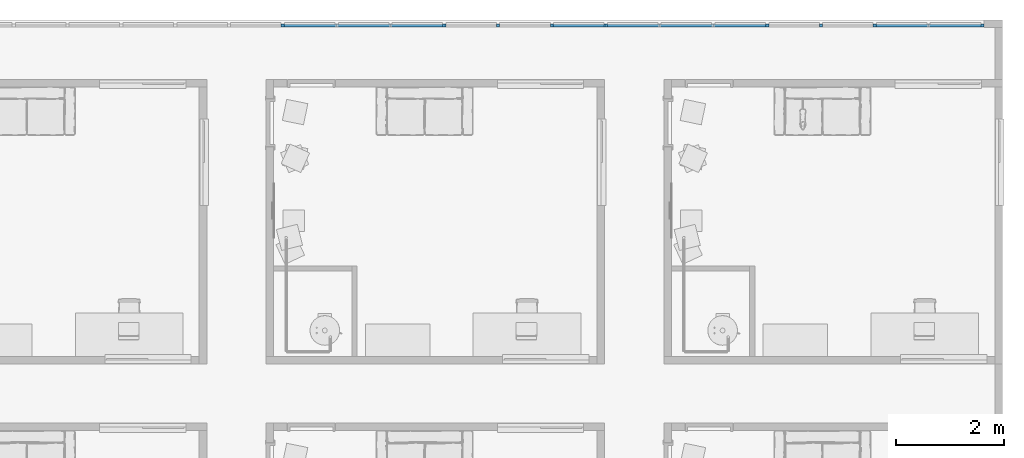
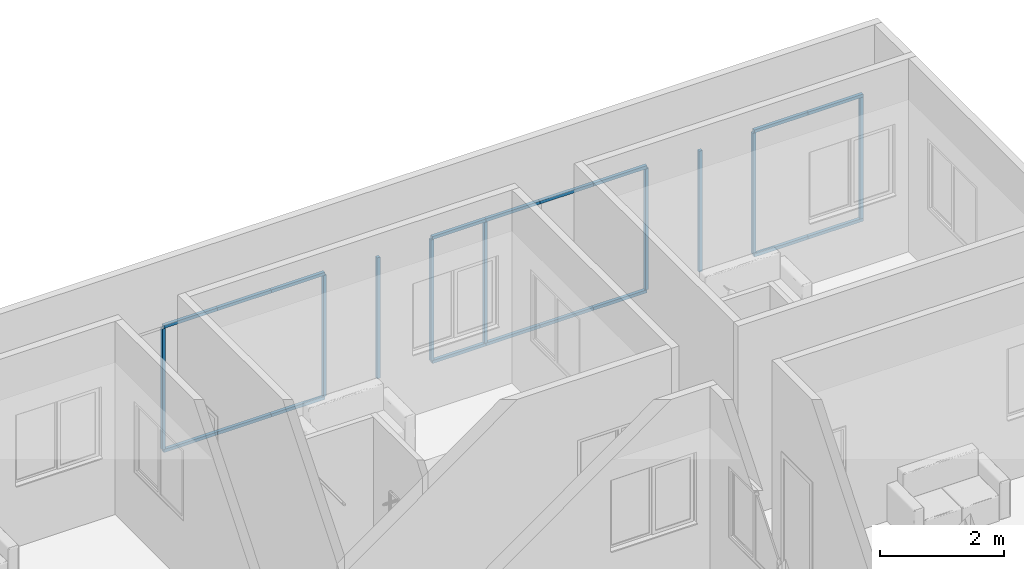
# One storey, part 4 of 71: 27 members, 1 element without a shape of its own.
"""IFC4 building model written with IfcOpenShell, lengths in centimetres."""

from ifc_helpers import new_model, entity, si_unit, converted_unit, derived_unit, direction, frame, origin, place, context, subcontext, project, spatial, indexed_curve, outline, extrude, source, transform, mapped, material, type_object, type_shapes, element, aggregate, save


model = new_model("IFC4")

# Units and contexts
model_context = context("Model", 3, precision=0.001, world=origin(), true_north=direction((6.123233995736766e-17, 1.0)))
body_context = subcontext(model_context, "Body", "Model", "MODEL_VIEW")
ifc_project = project(units=[si_unit("LENGTHUNIT", "METRE", prefix="CENTI"), si_unit("AREAUNIT", "SQUARE_METRE"), si_unit("VOLUMEUNIT", "CUBIC_METRE"), derived_unit("THERMALTRANSMITTANCEUNIT", [(si_unit("MASSUNIT", "GRAM", prefix="KILO"), 1), (si_unit("THERMODYNAMICTEMPERATUREUNIT", "KELVIN"), -1), (si_unit("TIMEUNIT", "SECOND"), -3)]), converted_unit("PLANEANGLEUNIT", "DEGREE", entity("IfcPlaneAngleMeasure", 0.017453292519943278), si_unit("PLANEANGLEUNIT", "RADIAN"), dimensions=[0, 0, 0, 0, 0, 0, 0]), derived_unit("MASSDENSITYUNIT", [(si_unit("MASSUNIT", "GRAM", prefix="KILO"), 1), (si_unit("LENGTHUNIT", "METRE"), -3)]), derived_unit("VAPORPERMEABILITYUNIT", [(si_unit("LENGTHUNIT", "METRE"), -1), (si_unit("TIMEUNIT", "SECOND"), 1)]), derived_unit("USERDEFINED", [(si_unit("MASSUNIT", "GRAM", prefix="KILO"), 1), (si_unit("TIMEUNIT", "SECOND"), -3), (si_unit("LENGTHUNIT", "METRE"), 3), (si_unit("ELECTRICCURRENTUNIT", "AMPERE"), -2)]), derived_unit("SPECIFICHEATCAPACITYUNIT", [(si_unit("THERMODYNAMICTEMPERATUREUNIT", "KELVIN"), -1), (si_unit("LENGTHUNIT", "METRE"), 2), (si_unit("TIMEUNIT", "SECOND"), -2)]), derived_unit("THERMALCONDUCTANCEUNIT", [(si_unit("MASSUNIT", "GRAM", prefix="KILO"), 1), (si_unit("THERMODYNAMICTEMPERATUREUNIT", "KELVIN"), -1), (si_unit("TIMEUNIT", "SECOND"), -3), (si_unit("LENGTHUNIT", "METRE"), 1)]), si_unit("PRESSUREUNIT", "PASCAL"), derived_unit("MODULUSOFELASTICITYUNIT", [(si_unit("MASSUNIT", "GRAM", prefix="KILO"), 1), (si_unit("LENGTHUNIT", "METRE"), -1), (si_unit("TIMEUNIT", "SECOND"), -2)]), derived_unit("THERMALEXPANSIONCOEFFICIENTUNIT", [(si_unit("THERMODYNAMICTEMPERATUREUNIT", "KELVIN"), -1)])], contexts=[model_context])

# Site, building, storey
site_placement = place(None, origin())
site = spatial("IfcSite", under=ifc_project, at=site_placement, Name="Default", CompositionType="ELEMENT")
building_placement = place(site_placement, origin())
building = spatial("IfcBuilding", under=site, at=building_placement, Name="IDS Escape Game Building", CompositionType="ELEMENT")
storey_placement = place(building_placement, frame((0.0, 0.0, 400.0)))
storey = spatial("IfcBuildingStorey", under=building, at=storey_placement, Name="01_First Floor", CompositionType="ELEMENT", Elevation=399.99999999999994)

# Curtain wall, members
curtain_wall_type = type_object("IfcCurtainWallType", Name="Curtain Wall:ARC_31.3_CWA_LIB_bandraam vast 100cm - profiel 60x60_gen_BERSnl", PredefinedType="NOTDEFINED")
curtain_wall_placement = place(storey_placement, frame((0.0, 0.0, -400.0)))
curtain_wall = element("IfcCurtainWall", 1, at=curtain_wall_placement, inside=storey, type_object=curtain_wall_type, Name="Curtain Wall:ARC_31.3_CWA_LIB_bandraam vast 100cm - profiel 60x60_gen_BERSnl", ObjectType="Curtain Wall:ARC_31.3_CWA_LIB_bandraam vast 100cm - profiel 60x60_gen_BERSnl", PredefinedType="NOTDEFINED")
ifc_material = material(Name="<Unnamed>")
member_type_1 = type_object("IfcMemberType", Name="Rectangular Mullion:30-_Stijl_Rechthoek_Midden_B60xD60", PredefinedType="MULLION", material=ifc_material)
shared_shape_1 = source(origin(), body_context, "Body", "SweptSolid", [
    extrude(outline(indexed_curve([(-3.0, -3.0), (3.0, -3.0), (3.0, 3.0), (-3.0, 3.0), (-3.0, -3.0)], self_intersect=False)), frame((-3.0, 3.0, -102.84313728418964), z_axis=(0.0, 0.0, 1.0), x_axis=(-1.0, 0.0, 0.0)), (0.0, 0.0, 1.0), 102.84313728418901),
])
type_shapes(member_type_1, [shared_shape_1])
member_1_placement = place(curtain_wall_placement, frame((5015.0, 3182.0, 650.0), z_axis=(1.0, 0.0, 0.0), x_axis=(0.0, 0.0, 1.0)))
member_1 = element("IfcMember", 2, at=member_1_placement, type_object=member_type_1, material=ifc_material, Name="Rectangular Mullion:30-_Stijl_Rechthoek_Midden_B60xD60", ObjectType="Rectangular Mullion:30-_Stijl_Rechthoek_Midden_B60xD60", PredefinedType="MULLION", context=body_context, shape_type="MappedRepresentation", body=[
    mapped(shared_shape_1, transform((0.0, 0.0, 0.0), scale=1.0)),
])
member_type_2 = type_object("IfcMemberType", Name="Rectangular Mullion:30-_Stijl_Rechthoek_Midden_B60xD60", PredefinedType="MULLION", material=ifc_material)
shared_shape_2 = source(origin(), body_context, "Body", "SweptSolid", [
    extrude(outline(indexed_curve([(-3.0, -3.0), (3.0, -3.0), (3.0, 3.0), (-3.0, 3.0), (-3.0, -3.0)], self_intersect=False)), frame((-3.0, 3.0, -99.84313725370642), z_axis=(0.0, 0.0, 1.0), x_axis=(-1.0, 0.0, 0.0)), (0.0, 0.0, 1.0), 99.84313725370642),
])
type_shapes(member_type_2, [shared_shape_2])
member_2_placement = place(curtain_wall_placement, frame((3813.882352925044, 3182.0, 650.0), z_axis=(1.0, 0.0, 0.0), x_axis=(0.0, 0.0, 1.0)))
member_2 = element("IfcMember", 3, at=member_2_placement, type_object=member_type_2, material=ifc_material, Name="Rectangular Mullion:30-_Stijl_Rechthoek_Midden_B60xD60", ObjectType="Rectangular Mullion:30-_Stijl_Rechthoek_Midden_B60xD60", PredefinedType="MULLION", context=body_context, shape_type="MappedRepresentation", body=[
    mapped(shared_shape_2, transform((0.0, 0.0, 0.0), scale=1.0)),
])
member_3_placement = place(curtain_wall_placement, frame((3913.7254901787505, 3182.0, 650.0), z_axis=(1.0, 0.0, 0.0), x_axis=(0.0, 0.0, 1.0)))
member_3 = element("IfcMember", 4, at=member_3_placement, type_object=member_type_2, material=ifc_material, Name="Rectangular Mullion:30-_Stijl_Rechthoek_Midden_B60xD60", ObjectType="Rectangular Mullion:30-_Stijl_Rechthoek_Midden_B60xD60", PredefinedType="MULLION", context=body_context, shape_type="MappedRepresentation", body=[
    mapped(shared_shape_2, transform((0.0, 0.0, 0.0), scale=1.0)),
])
member_4_placement = place(curtain_wall_placement, frame((4013.568627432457, 3182.0, 650.0), z_axis=(1.0, 0.0, 0.0), x_axis=(0.0, 0.0, 1.0)))
member_4 = element("IfcMember", 5, at=member_4_placement, type_object=member_type_2, material=ifc_material, Name="Rectangular Mullion:30-_Stijl_Rechthoek_Midden_B60xD60", ObjectType="Rectangular Mullion:30-_Stijl_Rechthoek_Midden_B60xD60", PredefinedType="MULLION", context=body_context, shape_type="MappedRepresentation", body=[
    mapped(shared_shape_2, transform((0.0, 0.0, 0.0), scale=1.0)),
])
member_5_placement = place(curtain_wall_placement, frame((4313.098039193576, 3182.0, 650.0), z_axis=(1.0, 0.0, 0.0), x_axis=(0.0, 0.0, 1.0)))
member_5 = element("IfcMember", 6, at=member_5_placement, type_object=member_type_2, material=ifc_material, Name="Rectangular Mullion:30-_Stijl_Rechthoek_Midden_B60xD60", ObjectType="Rectangular Mullion:30-_Stijl_Rechthoek_Midden_B60xD60", PredefinedType="MULLION", context=body_context, shape_type="MappedRepresentation", body=[
    mapped(shared_shape_2, transform((0.0, 0.0, 0.0), scale=1.0)),
])
member_6_placement = place(curtain_wall_placement, frame((4412.941176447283, 3182.0, 650.0), z_axis=(1.0, 0.0, 0.0), x_axis=(0.0, 0.0, 1.0)))
member_6 = element("IfcMember", 7, at=member_6_placement, type_object=member_type_2, material=ifc_material, Name="Rectangular Mullion:30-_Stijl_Rechthoek_Midden_B60xD60", ObjectType="Rectangular Mullion:30-_Stijl_Rechthoek_Midden_B60xD60", PredefinedType="MULLION", context=body_context, shape_type="MappedRepresentation", body=[
    mapped(shared_shape_2, transform((0.0, 0.0, 0.0), scale=1.0)),
])
member_7_placement = place(curtain_wall_placement, frame((4512.7843137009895, 3182.0, 650.0), z_axis=(1.0, 0.0, 0.0), x_axis=(0.0, 0.0, 1.0)))
member_7 = element("IfcMember", 8, at=member_7_placement, type_object=member_type_2, material=ifc_material, Name="Rectangular Mullion:30-_Stijl_Rechthoek_Midden_B60xD60", ObjectType="Rectangular Mullion:30-_Stijl_Rechthoek_Midden_B60xD60", PredefinedType="MULLION", context=body_context, shape_type="MappedRepresentation", body=[
    mapped(shared_shape_2, transform((0.0, 0.0, 0.0), scale=1.0)),
])
member_8_placement = place(curtain_wall_placement, frame((4612.6274509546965, 3182.0, 650.0), z_axis=(1.0, 0.0, 0.0), x_axis=(0.0, 0.0, 1.0)))
member_8 = element("IfcMember", 9, at=member_8_placement, type_object=member_type_2, material=ifc_material, Name="Rectangular Mullion:30-_Stijl_Rechthoek_Midden_B60xD60", ObjectType="Rectangular Mullion:30-_Stijl_Rechthoek_Midden_B60xD60", PredefinedType="MULLION", context=body_context, shape_type="MappedRepresentation", body=[
    mapped(shared_shape_2, transform((0.0, 0.0, 0.0), scale=1.0)),
])
member_9_placement = place(curtain_wall_placement, frame((4912.156862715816, 3182.0, 650.0), z_axis=(1.0, 0.0, 0.0), x_axis=(0.0, 0.0, 1.0)))
member_9 = element("IfcMember", 10, at=member_9_placement, type_object=member_type_2, material=ifc_material, Name="Rectangular Mullion:30-_Stijl_Rechthoek_Midden_B60xD60", ObjectType="Rectangular Mullion:30-_Stijl_Rechthoek_Midden_B60xD60", PredefinedType="MULLION", context=body_context, shape_type="MappedRepresentation", body=[
    mapped(shared_shape_2, transform((0.0, 0.0, 0.0), scale=1.0)),
])
member_type_3 = type_object("IfcMemberType", Name="Rectangular Mullion:30-_Stijl_Rechthoek_Midden_B60xD60", PredefinedType="MULLION", material=ifc_material)
shared_shape_3 = source(origin(), body_context, "Body", "SweptSolid", [
    extrude(outline(indexed_curve([(-3.0, -3.0), (3.0, -3.0), (3.0, 3.0), (-3.0, 3.0), (-3.0, -3.0)], self_intersect=False)), frame((-3.0, 3.0, -99.84313725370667), z_axis=(0.0, 0.0, 1.0), x_axis=(-1.0, 0.0, 0.0)), (0.0, 0.0, 1.0), 99.84313725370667),
])
type_shapes(member_type_3, [shared_shape_3])
member_10_placement = place(curtain_wall_placement, frame((3714.0392156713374, 3182.0, 400.0), z_axis=(-1.0, 0.0, 0.0), x_axis=(0.0, 0.0, -1.0)))
member_10 = element("IfcMember", 11, at=member_10_placement, type_object=member_type_3, material=ifc_material, Name="Rectangular Mullion:30-_Stijl_Rechthoek_Midden_B60xD60", ObjectType="Rectangular Mullion:30-_Stijl_Rechthoek_Midden_B60xD60", PredefinedType="MULLION", context=body_context, shape_type="MappedRepresentation", body=[
    mapped(shared_shape_3, transform((0.0, 0.0, 0.0), scale=1.0)),
])
member_11_placement = place(curtain_wall_placement, frame((3813.882352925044, 3182.0, 400.0), z_axis=(-1.0, 0.0, 0.0), x_axis=(0.0, 0.0, -1.0)))
member_11 = element("IfcMember", 12, at=member_11_placement, type_object=member_type_3, material=ifc_material, Name="Rectangular Mullion:30-_Stijl_Rechthoek_Midden_B60xD60", ObjectType="Rectangular Mullion:30-_Stijl_Rechthoek_Midden_B60xD60", PredefinedType="MULLION", context=body_context, shape_type="MappedRepresentation", body=[
    mapped(shared_shape_3, transform((0.0, 0.0, 0.0), scale=1.0)),
])
member_12_placement = place(curtain_wall_placement, frame((3913.7254901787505, 3182.0, 400.0), z_axis=(-1.0, 0.0, 0.0), x_axis=(0.0, 0.0, -1.0)))
member_12 = element("IfcMember", 13, at=member_12_placement, type_object=member_type_3, material=ifc_material, Name="Rectangular Mullion:30-_Stijl_Rechthoek_Midden_B60xD60", ObjectType="Rectangular Mullion:30-_Stijl_Rechthoek_Midden_B60xD60", PredefinedType="MULLION", context=body_context, shape_type="MappedRepresentation", body=[
    mapped(shared_shape_3, transform((0.0, 0.0, 0.0), scale=1.0)),
])
member_13_placement = place(curtain_wall_placement, frame((4213.25490193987, 3182.0, 400.0), z_axis=(-1.0, 0.0, 0.0), x_axis=(0.0, 0.0, -1.0)))
member_13 = element("IfcMember", 14, at=member_13_placement, type_object=member_type_3, material=ifc_material, Name="Rectangular Mullion:30-_Stijl_Rechthoek_Midden_B60xD60", ObjectType="Rectangular Mullion:30-_Stijl_Rechthoek_Midden_B60xD60", PredefinedType="MULLION", context=body_context, shape_type="MappedRepresentation", body=[
    mapped(shared_shape_3, transform((0.0, 0.0, 0.0), scale=1.0)),
])
member_14_placement = place(curtain_wall_placement, frame((4313.098039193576, 3182.0, 400.0), z_axis=(-1.0, 0.0, 0.0), x_axis=(0.0, 0.0, -1.0)))
member_14 = element("IfcMember", 15, at=member_14_placement, type_object=member_type_3, material=ifc_material, Name="Rectangular Mullion:30-_Stijl_Rechthoek_Midden_B60xD60", ObjectType="Rectangular Mullion:30-_Stijl_Rechthoek_Midden_B60xD60", PredefinedType="MULLION", context=body_context, shape_type="MappedRepresentation", body=[
    mapped(shared_shape_3, transform((0.0, 0.0, 0.0), scale=1.0)),
])
member_15_placement = place(curtain_wall_placement, frame((4412.941176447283, 3182.0, 400.0), z_axis=(-1.0, 0.0, 0.0), x_axis=(0.0, 0.0, -1.0)))
member_15 = element("IfcMember", 16, at=member_15_placement, type_object=member_type_3, material=ifc_material, Name="Rectangular Mullion:30-_Stijl_Rechthoek_Midden_B60xD60", ObjectType="Rectangular Mullion:30-_Stijl_Rechthoek_Midden_B60xD60", PredefinedType="MULLION", context=body_context, shape_type="MappedRepresentation", body=[
    mapped(shared_shape_3, transform((0.0, 0.0, 0.0), scale=1.0)),
])
member_16_placement = place(curtain_wall_placement, frame((4512.7843137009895, 3182.0, 400.0), z_axis=(-1.0, 0.0, 0.0), x_axis=(0.0, 0.0, -1.0)))
member_16 = element("IfcMember", 17, at=member_16_placement, type_object=member_type_3, material=ifc_material, Name="Rectangular Mullion:30-_Stijl_Rechthoek_Midden_B60xD60", ObjectType="Rectangular Mullion:30-_Stijl_Rechthoek_Midden_B60xD60", PredefinedType="MULLION", context=body_context, shape_type="MappedRepresentation", body=[
    mapped(shared_shape_3, transform((0.0, 0.0, 0.0), scale=1.0)),
])
member_17_placement = place(curtain_wall_placement, frame((4812.31372546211, 3182.0, 400.0), z_axis=(-1.0, 0.0, 0.0), x_axis=(0.0, 0.0, -1.0)))
member_17 = element("IfcMember", 18, at=member_17_placement, type_object=member_type_3, material=ifc_material, Name="Rectangular Mullion:30-_Stijl_Rechthoek_Midden_B60xD60", ObjectType="Rectangular Mullion:30-_Stijl_Rechthoek_Midden_B60xD60", PredefinedType="MULLION", context=body_context, shape_type="MappedRepresentation", body=[
    mapped(shared_shape_3, transform((0.0, 0.0, 0.0), scale=1.0)),
])
member_type_4 = type_object("IfcMemberType", Name="Rectangular Mullion:30-_Stijl_Rechthoek_Midden_B60xD60", PredefinedType="MULLION", material=ifc_material)
shared_shape_4 = source(origin(), body_context, "Body", "SweptSolid", [
    extrude(outline(indexed_curve([(-3.0, -3.0), (3.0, -3.0), (3.0, 3.0), (-3.0, 3.0), (-3.0, -3.0)], self_intersect=False)), frame((-3.0, 3.0, -102.84313728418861), z_axis=(0.0, 0.0, 1.0), x_axis=(-1.0, 0.0, 0.0)), (0.0, 0.0, 1.0), 102.84313728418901),
])
type_shapes(member_type_4, [shared_shape_4])
member_18_placement = place(curtain_wall_placement, frame((4912.156862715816, 3182.0, 400.0), z_axis=(-1.0, 0.0, 0.0), x_axis=(0.0, 0.0, -1.0)))
member_18 = element("IfcMember", 19, at=member_18_placement, type_object=member_type_4, material=ifc_material, Name="Rectangular Mullion:30-_Stijl_Rechthoek_Midden_B60xD60", ObjectType="Rectangular Mullion:30-_Stijl_Rechthoek_Midden_B60xD60", PredefinedType="MULLION", context=body_context, shape_type="MappedRepresentation", body=[
    mapped(shared_shape_4, transform((0.0, 0.0, 0.0), scale=1.0)),
])
member_type_5 = type_object("IfcMemberType", Name="Rectangular Mullion:30-_Stijl_Rechthoek_Midden_B60xD60", PredefinedType="MULLION", material=ifc_material)
shared_shape_5 = source(origin(), body_context, "Body", "SweptSolid", [
    extrude(outline(indexed_curve([(-3.0, -3.0), (3.0, -3.0), (3.0, 3.0), (-3.0, 3.0), (-3.0, -3.0)], self_intersect=False)), frame((-3.0, 3.0, -238.0), z_axis=(0.0, 0.0, 1.0), x_axis=(-1.0, 0.0, 0.0)), (0.0, 0.0, 1.0), 238.00000000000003),
])
type_shapes(member_type_5, [shared_shape_5])
member_19_placement = place(curtain_wall_placement, frame((5015.0, 3182.0, 406.0), z_axis=(0.0, 0.0, -1.0), x_axis=(1.0, 0.0, 0.0)))
member_19 = element("IfcMember", 20, at=member_19_placement, type_object=member_type_5, material=ifc_material, Name="Rectangular Mullion:30-_Stijl_Rechthoek_Midden_B60xD60", ObjectType="Rectangular Mullion:30-_Stijl_Rechthoek_Midden_B60xD60", PredefinedType="MULLION", context=body_context, shape_type="MappedRepresentation", body=[
    mapped(shared_shape_5, transform((0.0, 0.0, 0.0), scale=1.0)),
])
member_type_6 = type_object("IfcMemberType", Name="Rectangular Mullion:30-_Stijl_Rechthoek_Midden_B60xD60", PredefinedType="MULLION", material=ifc_material)
shared_shape_6 = source(origin(), body_context, "Body", "SweptSolid", [
    extrude(outline(indexed_curve([(-3.0, -3.0), (3.0, -3.0), (3.0, 3.0), (-3.0, 3.0), (-3.0, -3.0)], self_intersect=False)), frame((0.0, 3.0, -238.0), z_axis=(0.0, 0.0, 1.0), x_axis=(-1.0, 0.0, 0.0)), (0.0, 0.0, 1.0), 238.00000000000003),
])
type_shapes(member_type_6, [shared_shape_6])
member_20_placement = place(curtain_wall_placement, frame((3714.0392156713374, 3182.0, 406.0), z_axis=(0.0, 0.0, -1.0), x_axis=(1.0, 0.0, 0.0)))
member_20 = element("IfcMember", 21, at=member_20_placement, type_object=member_type_6, material=ifc_material, Name="Rectangular Mullion:30-_Stijl_Rechthoek_Midden_B60xD60", ObjectType="Rectangular Mullion:30-_Stijl_Rechthoek_Midden_B60xD60", PredefinedType="MULLION", context=body_context, shape_type="MappedRepresentation", body=[
    mapped(shared_shape_6, transform((0.0, 0.0, 0.0), scale=1.0)),
])
member_21_placement = place(curtain_wall_placement, frame((4013.568627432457, 3182.0, 406.0), z_axis=(0.0, 0.0, -1.0), x_axis=(1.0, 0.0, 0.0)))
member_21 = element("IfcMember", 22, at=member_21_placement, type_object=member_type_6, material=ifc_material, Name="Rectangular Mullion:30-_Stijl_Rechthoek_Midden_B60xD60", ObjectType="Rectangular Mullion:30-_Stijl_Rechthoek_Midden_B60xD60", PredefinedType="MULLION", context=body_context, shape_type="MappedRepresentation", body=[
    mapped(shared_shape_6, transform((0.0, 0.0, 0.0), scale=1.0)),
])
member_22_placement = place(curtain_wall_placement, frame((4113.411764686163, 3182.0, 406.0), z_axis=(0.0, 0.0, -1.0), x_axis=(1.0, 0.0, 0.0)))
member_22 = element("IfcMember", 23, at=member_22_placement, type_object=member_type_6, material=ifc_material, Name="Rectangular Mullion:30-_Stijl_Rechthoek_Midden_B60xD60", ObjectType="Rectangular Mullion:30-_Stijl_Rechthoek_Midden_B60xD60", PredefinedType="MULLION", context=body_context, shape_type="MappedRepresentation", body=[
    mapped(shared_shape_6, transform((0.0, 0.0, 0.0), scale=1.0)),
])
member_23_placement = place(curtain_wall_placement, frame((4213.25490193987, 3182.0, 406.0), z_axis=(0.0, 0.0, -1.0), x_axis=(1.0, 0.0, 0.0)))
member_23 = element("IfcMember", 24, at=member_23_placement, type_object=member_type_6, material=ifc_material, Name="Rectangular Mullion:30-_Stijl_Rechthoek_Midden_B60xD60", ObjectType="Rectangular Mullion:30-_Stijl_Rechthoek_Midden_B60xD60", PredefinedType="MULLION", context=body_context, shape_type="MappedRepresentation", body=[
    mapped(shared_shape_6, transform((0.0, 0.0, 0.0), scale=1.0)),
])
member_24_placement = place(curtain_wall_placement, frame((4313.098039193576, 3182.0, 406.0), z_axis=(0.0, 0.0, -1.0), x_axis=(1.0, 0.0, 0.0)))
member_24 = element("IfcMember", 25, at=member_24_placement, type_object=member_type_6, material=ifc_material, Name="Rectangular Mullion:30-_Stijl_Rechthoek_Midden_B60xD60", ObjectType="Rectangular Mullion:30-_Stijl_Rechthoek_Midden_B60xD60", PredefinedType="MULLION", context=body_context, shape_type="MappedRepresentation", body=[
    mapped(shared_shape_6, transform((0.0, 0.0, 0.0), scale=1.0)),
])
member_25_placement = place(curtain_wall_placement, frame((4612.6274509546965, 3182.0, 406.0), z_axis=(0.0, 0.0, -1.0), x_axis=(1.0, 0.0, 0.0)))
member_25 = element("IfcMember", 26, at=member_25_placement, type_object=member_type_6, material=ifc_material, Name="Rectangular Mullion:30-_Stijl_Rechthoek_Midden_B60xD60", ObjectType="Rectangular Mullion:30-_Stijl_Rechthoek_Midden_B60xD60", PredefinedType="MULLION", context=body_context, shape_type="MappedRepresentation", body=[
    mapped(shared_shape_6, transform((0.0, 0.0, 0.0), scale=1.0)),
])
member_26_placement = place(curtain_wall_placement, frame((4712.470588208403, 3182.0, 406.0), z_axis=(0.0, 0.0, -1.0), x_axis=(1.0, 0.0, 0.0)))
member_26 = element("IfcMember", 27, at=member_26_placement, type_object=member_type_6, material=ifc_material, Name="Rectangular Mullion:30-_Stijl_Rechthoek_Midden_B60xD60", ObjectType="Rectangular Mullion:30-_Stijl_Rechthoek_Midden_B60xD60", PredefinedType="MULLION", context=body_context, shape_type="MappedRepresentation", body=[
    mapped(shared_shape_6, transform((0.0, 0.0, 0.0), scale=1.0)),
])
member_27_placement = place(curtain_wall_placement, frame((4812.31372546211, 3182.0, 406.0), z_axis=(0.0, 0.0, -1.0), x_axis=(1.0, 0.0, 0.0)))
member_27 = element("IfcMember", 28, at=member_27_placement, type_object=member_type_6, material=ifc_material, Name="Rectangular Mullion:30-_Stijl_Rechthoek_Midden_B60xD60", ObjectType="Rectangular Mullion:30-_Stijl_Rechthoek_Midden_B60xD60", PredefinedType="MULLION", context=body_context, shape_type="MappedRepresentation", body=[
    mapped(shared_shape_6, transform((0.0, 0.0, 0.0), scale=1.0)),
])
aggregate(curtain_wall, [member_1, member_2, member_3, member_4, member_5, member_6, member_7, member_8, member_9, member_10, member_11, member_12, member_13, member_14, member_15, member_16, member_17, member_18, member_19, member_20, member_21, member_22, member_23, member_24, member_25, member_26, member_27])

save(model, "model.ifc")
